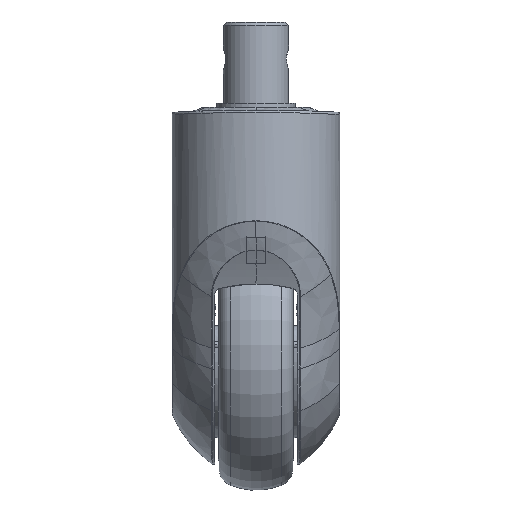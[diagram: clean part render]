
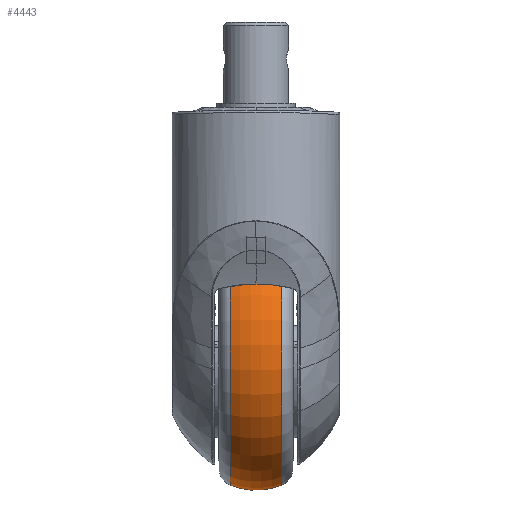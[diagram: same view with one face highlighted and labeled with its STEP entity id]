
A CAD part, left-side view. The second image highlights one B-rep face of the part: STEP entity #4443.
In plain terms, the highlighted toroidal (fillet/blend) face has major radius 32.5 mm and minor radius 30 mm.
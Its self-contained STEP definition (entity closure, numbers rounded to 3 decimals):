
#787=TOROIDAL_SURFACE('',#43498,32.5,30.);
#2068=FACE_OUTER_BOUND('',#15265,.T.);
#4443=ADVANCED_FACE('',(#2068),#787,.T.);
#15265=EDGE_LOOP('',(#18871,#18872,#18873,#18874));
#18871=ORIENTED_EDGE('',*,*,#35774,.F.);
#18872=ORIENTED_EDGE('',*,*,#36020,.T.);
#18873=ORIENTED_EDGE('',*,*,#35776,.T.);
#18874=ORIENTED_EDGE('',*,*,#36021,.T.);
#31391=VERTEX_POINT('',#55701);
#31392=VERTEX_POINT('',#55702);
#31393=VERTEX_POINT('',#55704);
#31394=VERTEX_POINT('',#55706);
#35774=EDGE_CURVE('',#31392,#31393,#41952,.T.);
#35776=EDGE_CURVE('',#31391,#31394,#41954,.T.);
#36020=EDGE_CURVE('',#31392,#31391,#42072,.T.);
#36021=EDGE_CURVE('',#31394,#31393,#42073,.T.);
#41952=CIRCLE('',#43332,30.);
#41954=CIRCLE('',#43334,30.);
#42072=CIRCLE('',#43496,60.358);
#42073=CIRCLE('',#43497,60.358);
#43332=AXIS2_PLACEMENT_3D('',#55703,#47060,#47061);
#43334=AXIS2_PLACEMENT_3D('',#55707,#47064,#47065);
#43496=AXIS2_PLACEMENT_3D('',#56568,#47483,#47484);
#43497=AXIS2_PLACEMENT_3D('',#56569,#47485,#47486);
#43498=AXIS2_PLACEMENT_3D('',#56570,#47487,#47488);
#47060=DIRECTION('',(1.,0.,0.));
#47061=DIRECTION('',(0.,0.,-1.));
#47064=DIRECTION('',(-1.,0.,0.));
#47065=DIRECTION('',(0.,0.,1.));
#47483=DIRECTION('',(0.,-1.,0.));
#47484=DIRECTION('',(0.,0.,-1.));
#47485=DIRECTION('',(0.,1.,0.));
#47486=DIRECTION('',(0.,0.,1.));
#47487=DIRECTION('',(0.,-1.,0.));
#47488=DIRECTION('',(0.,0.,1.));
#55701=CARTESIAN_POINT('',(38.,11.133,-199.258));
#55702=CARTESIAN_POINT('',(38.,11.133,-78.542));
#55703=CARTESIAN_POINT('',(38.,0.,-106.4));
#55704=CARTESIAN_POINT('',(38.,-11.133,-78.542));
#55706=CARTESIAN_POINT('',(38.,-11.133,-199.258));
#55707=CARTESIAN_POINT('',(38.,0.,-171.4));
#56568=CARTESIAN_POINT('',(38.,11.133,-138.9));
#56569=CARTESIAN_POINT('',(38.,-11.133,-138.9));
#56570=CARTESIAN_POINT('',(38.,0.,-138.9));
